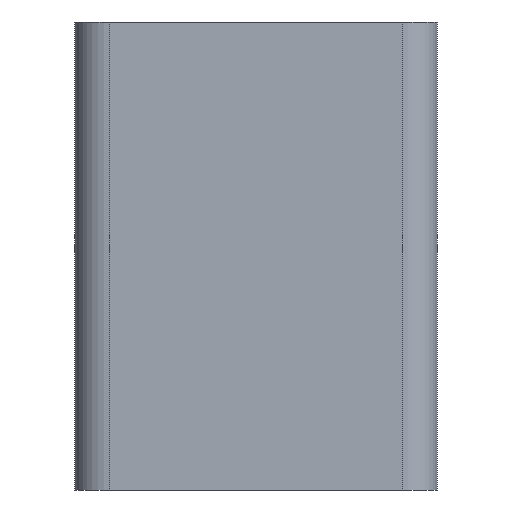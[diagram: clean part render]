
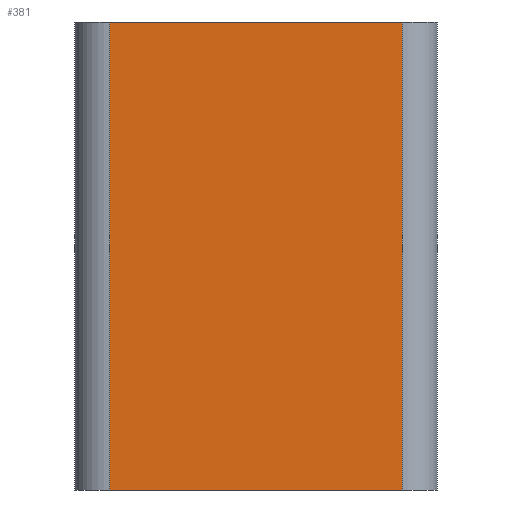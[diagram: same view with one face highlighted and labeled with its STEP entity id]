
A CAD part, left-side view. The second image highlights one B-rep face of the part: STEP entity #381.
In plain terms, the highlighted planar face has unit normal (-1, 0, 0).
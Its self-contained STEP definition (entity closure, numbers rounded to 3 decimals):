
#18=PLANE('',#418);
#35=FACE_OUTER_BOUND('',#56,.T.);
#56=EDGE_LOOP('',(#271,#272,#273,#274));
#79=LINE('',#560,#123);
#81=LINE('',#566,#125);
#82=LINE('',#568,#126);
#83=LINE('',#569,#127);
#123=VECTOR('',#452,10.);
#125=VECTOR('',#458,10.);
#126=VECTOR('',#459,10.);
#127=VECTOR('',#460,10.);
#178=VERTEX_POINT('',#557);
#179=VERTEX_POINT('',#559);
#181=VERTEX_POINT('',#565);
#182=VERTEX_POINT('',#567);
#214=EDGE_CURVE('',#178,#179,#79,.T.);
#217=EDGE_CURVE('',#181,#178,#81,.T.);
#218=EDGE_CURVE('',#182,#181,#82,.T.);
#219=EDGE_CURVE('',#179,#182,#83,.T.);
#271=ORIENTED_EDGE('',*,*,#214,.F.);
#272=ORIENTED_EDGE('',*,*,#217,.F.);
#273=ORIENTED_EDGE('',*,*,#218,.F.);
#274=ORIENTED_EDGE('',*,*,#219,.F.);
#381=ADVANCED_FACE('',(#35),#18,.T.);
#418=AXIS2_PLACEMENT_3D('',#564,#456,#457);
#452=DIRECTION('',(0.,0.,1.));
#456=DIRECTION('center_axis',(-1.,0.,0.));
#457=DIRECTION('ref_axis',(0.,-1.,0.));
#458=DIRECTION('',(0.,1.,0.));
#459=DIRECTION('',(0.,0.,-1.));
#460=DIRECTION('',(0.,-1.,0.));
#557=CARTESIAN_POINT('',(-35.,6.,0.));
#559=CARTESIAN_POINT('',(-35.,6.,40.));
#560=CARTESIAN_POINT('',(-35.,6.,10.));
#564=CARTESIAN_POINT('Origin',(-35.,-7.,20.));
#565=CARTESIAN_POINT('',(-35.,-19.,0.));
#566=CARTESIAN_POINT('',(-35.,-22.,0.));
#567=CARTESIAN_POINT('',(-35.,-19.,40.));
#568=CARTESIAN_POINT('',(-35.,-19.,30.));
#569=CARTESIAN_POINT('',(-35.,8.,40.));
